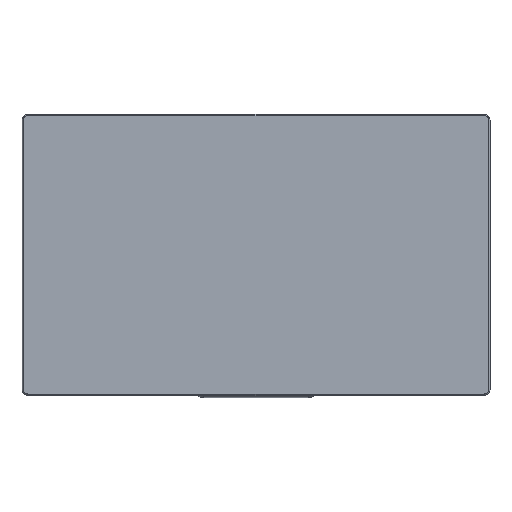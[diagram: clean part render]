
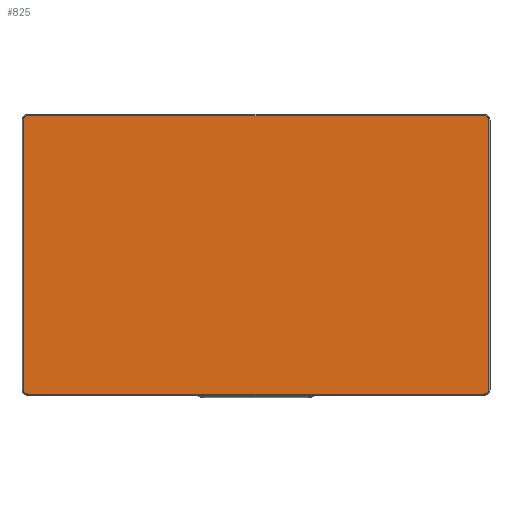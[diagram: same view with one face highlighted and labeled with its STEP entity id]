
A CAD part, top view. The second image highlights one B-rep face of the part: STEP entity #825.
In plain terms, the highlighted planar face has unit normal (0, 0, 1).
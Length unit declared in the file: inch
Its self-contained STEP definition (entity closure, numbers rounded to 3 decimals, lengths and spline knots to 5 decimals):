
#50=PLANE('',#920);
#100=FACE_OUTER_BOUND('',#163,.T.);
#163=EDGE_LOOP('',(#709,#710,#711,#712,#713,#714,#715,#716));
#222=LINE('',#1402,#286);
#226=LINE('',#1413,#290);
#229=LINE('',#1421,#293);
#232=LINE('',#1428,#296);
#286=VECTOR('',#1108,0.3937);
#290=VECTOR('',#1120,0.3937);
#293=VECTOR('',#1129,0.3937);
#296=VECTOR('',#1138,0.3937);
#351=CIRCLE('',#906,0.1);
#353=CIRCLE('',#910,0.1);
#354=CIRCLE('',#913,0.1);
#355=CIRCLE('',#916,0.1);
#414=VERTEX_POINT('',#1392);
#417=VERTEX_POINT('',#1397);
#418=VERTEX_POINT('',#1401);
#420=VERTEX_POINT('',#1407);
#421=VERTEX_POINT('',#1412);
#422=VERTEX_POINT('',#1416);
#423=VERTEX_POINT('',#1420);
#424=VERTEX_POINT('',#1424);
#510=EDGE_CURVE('',#417,#414,#351,.T.);
#511=EDGE_CURVE('',#414,#418,#222,.T.);
#516=EDGE_CURVE('',#418,#420,#353,.T.);
#517=EDGE_CURVE('',#420,#421,#226,.T.);
#520=EDGE_CURVE('',#421,#422,#354,.T.);
#521=EDGE_CURVE('',#422,#423,#229,.T.);
#524=EDGE_CURVE('',#423,#424,#355,.T.);
#525=EDGE_CURVE('',#424,#417,#232,.T.);
#709=ORIENTED_EDGE('',*,*,#510,.F.);
#710=ORIENTED_EDGE('',*,*,#525,.F.);
#711=ORIENTED_EDGE('',*,*,#524,.F.);
#712=ORIENTED_EDGE('',*,*,#521,.F.);
#713=ORIENTED_EDGE('',*,*,#520,.F.);
#714=ORIENTED_EDGE('',*,*,#517,.F.);
#715=ORIENTED_EDGE('',*,*,#516,.F.);
#716=ORIENTED_EDGE('',*,*,#511,.F.);
#825=ADVANCED_FACE('',(#100),#50,.T.);
#906=AXIS2_PLACEMENT_3D('',#1399,#1104,#1105);
#910=AXIS2_PLACEMENT_3D('',#1410,#1116,#1117);
#913=AXIS2_PLACEMENT_3D('',#1418,#1125,#1126);
#916=AXIS2_PLACEMENT_3D('',#1426,#1134,#1135);
#920=AXIS2_PLACEMENT_3D('',#1434,#1146,#1147);
#1104=DIRECTION('center_axis',(0.,0.,-1.));
#1105=DIRECTION('ref_axis',(-0.707,0.707,0.));
#1108=DIRECTION('',(1.,0.,0.));
#1116=DIRECTION('center_axis',(0.,0.,-1.));
#1117=DIRECTION('ref_axis',(0.707,0.707,0.));
#1120=DIRECTION('',(0.,-1.,0.));
#1125=DIRECTION('center_axis',(0.,0.,-1.));
#1126=DIRECTION('ref_axis',(0.707,-0.707,0.));
#1129=DIRECTION('',(-1.,0.,0.));
#1134=DIRECTION('center_axis',(0.,0.,-1.));
#1135=DIRECTION('ref_axis',(-0.707,-0.707,0.));
#1138=DIRECTION('',(0.,1.,0.));
#1146=DIRECTION('center_axis',(0.,0.,1.));
#1147=DIRECTION('ref_axis',(1.,0.,0.));
#1392=CARTESIAN_POINT('',(-4.875,2.975,1.25));
#1397=CARTESIAN_POINT('',(-4.975,2.875,1.25));
#1399=CARTESIAN_POINT('Origin',(-4.875,2.875,1.25));
#1401=CARTESIAN_POINT('',(4.875,2.975,1.25));
#1402=CARTESIAN_POINT('',(2.5,2.975,1.25));
#1407=CARTESIAN_POINT('',(4.975,2.875,1.25));
#1410=CARTESIAN_POINT('Origin',(4.875,2.875,1.25));
#1412=CARTESIAN_POINT('',(4.975,-2.875,1.25));
#1413=CARTESIAN_POINT('',(4.975,-1.5,1.25));
#1416=CARTESIAN_POINT('',(4.875,-2.975,1.25));
#1418=CARTESIAN_POINT('Origin',(4.875,-2.875,1.25));
#1420=CARTESIAN_POINT('',(-4.875,-2.975,1.25));
#1421=CARTESIAN_POINT('',(-2.5,-2.975,1.25));
#1424=CARTESIAN_POINT('',(-4.975,-2.875,1.25));
#1426=CARTESIAN_POINT('Origin',(-4.875,-2.875,1.25));
#1428=CARTESIAN_POINT('',(-4.975,1.5,1.25));
#1434=CARTESIAN_POINT('Origin',(0.,0.,
1.25));
